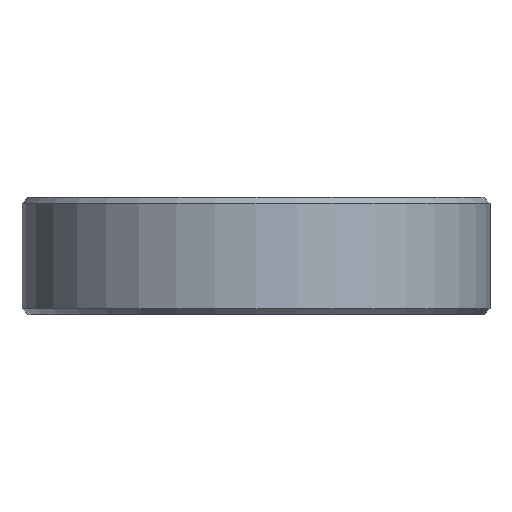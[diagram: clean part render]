
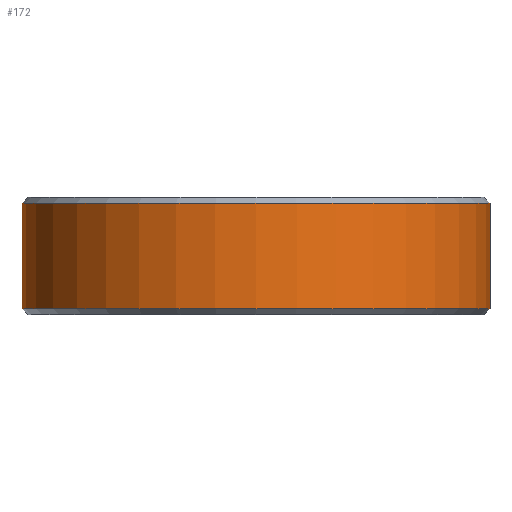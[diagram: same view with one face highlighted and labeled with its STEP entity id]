
A CAD part, front view. The second image highlights one B-rep face of the part: STEP entity #172.
In plain terms, the highlighted cylindrical face has radius 20 mm (diameter 40 mm), a partial arc.
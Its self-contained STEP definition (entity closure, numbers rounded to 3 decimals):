
#6 = EDGE_CURVE ( 'NONE', #404, #14, #266, .T. ) ;
#14 = VERTEX_POINT ( 'NONE', #336 ) ;
#21 = VERTEX_POINT ( 'NONE', #238 ) ;
#24 = DIRECTION ( 'NONE',  ( 0., 0., -1. ) ) ;
#29 = AXIS2_PLACEMENT_3D ( 'NONE', #104, #69, #33 ) ;
#33 = DIRECTION ( 'NONE',  ( -1., 0., 0. ) ) ;
#35 = CARTESIAN_POINT ( 'NONE',  ( 0., 0., 9.5 ) ) ;
#46 = CARTESIAN_POINT ( 'NONE',  ( -20., 0., 9.5 ) ) ;
#59 = CARTESIAN_POINT ( 'NONE',  ( 20., 0., 10. ) ) ;
#69 = DIRECTION ( 'NONE',  ( 0., 0., -1. ) ) ;
#79 = VECTOR ( 'NONE', #149, 1000. ) ;
#104 = CARTESIAN_POINT ( 'NONE',  ( 0., 0., 10. ) ) ;
#111 = AXIS2_PLACEMENT_3D ( 'NONE', #204, #407, #129 ) ;
#129 = DIRECTION ( 'NONE',  ( 1., 0., 0. ) ) ;
#139 = EDGE_CURVE ( 'NONE', #404, #251, #290, .T. ) ;
#143 = FACE_OUTER_BOUND ( 'NONE', #438, .T. ) ;
#148 = VECTOR ( 'NONE', #24, 1000. ) ;
#149 = DIRECTION ( 'NONE',  ( 0., 0., -1. ) ) ;
#161 = LINE ( 'NONE', #437, #79 ) ;
#172 = ADVANCED_FACE ( 'NONE', ( #143 ), #384, .T. ) ;
#182 = ORIENTED_EDGE ( 'NONE', *, *, #426, .T. ) ;
#204 = CARTESIAN_POINT ( 'NONE',  ( 0., 0., 0.5 ) ) ;
#238 = CARTESIAN_POINT ( 'NONE',  ( -20., 0., 0.5 ) ) ;
#243 = DIRECTION ( 'NONE',  ( 0., 0., -1. ) ) ;
#251 = VERTEX_POINT ( 'NONE', #46 ) ;
#265 = CIRCLE ( 'NONE', #111, 20. ) ;
#266 = LINE ( 'NONE', #59, #148 ) ;
#285 = ORIENTED_EDGE ( 'NONE', *, *, #6, .F. ) ;
#290 = CIRCLE ( 'NONE', #356, 20. ) ;
#295 = CARTESIAN_POINT ( 'NONE',  ( 20., 0., 9.5 ) ) ;
#299 = ORIENTED_EDGE ( 'NONE', *, *, #339, .T. ) ;
#315 = DIRECTION ( 'NONE',  ( 1., 0., 0. ) ) ;
#336 = CARTESIAN_POINT ( 'NONE',  ( 20., 0., 0.5 ) ) ;
#339 = EDGE_CURVE ( 'NONE', #251, #21, #161, .T. ) ;
#356 = AXIS2_PLACEMENT_3D ( 'NONE', #35, #243, #315 ) ;
#384 = CYLINDRICAL_SURFACE ( 'NONE', #29, 20. ) ;
#404 = VERTEX_POINT ( 'NONE', #295 ) ;
#407 = DIRECTION ( 'NONE',  ( 0., 0., 1. ) ) ;
#426 = EDGE_CURVE ( 'NONE', #21, #14, #265, .T. ) ;
#437 = CARTESIAN_POINT ( 'NONE',  ( -20., 0., 10. ) ) ;
#438 = EDGE_LOOP ( 'NONE', ( #285, #441, #299, #182 ) ) ;
#441 = ORIENTED_EDGE ( 'NONE', *, *, #139, .T. ) ;
